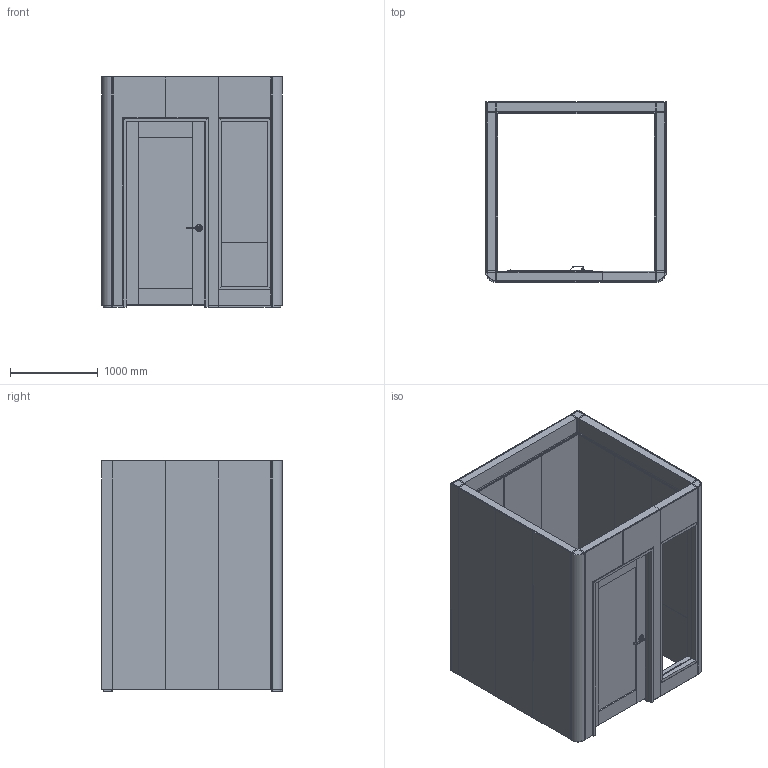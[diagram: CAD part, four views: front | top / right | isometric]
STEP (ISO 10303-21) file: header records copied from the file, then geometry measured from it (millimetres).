
FILE_DESCRIPTION(/* description */ (''),/* implementation_level */ '2;1');
FILE_NAME(/* name */ 'Quiet Two',/* time_stamp */ '2026-06-15T16:16:16+12:00',/* author */ (''),/* organization */ (''),/* preprocessor_version */ 'ST-DEVELOPER v19.2',/* originating_system */ 'Rhino 8.31',/* authorisation */ '');
FILE_SCHEMA (('CONFIG_CONTROL_DESIGN'));
Length unit declared in the file: millimetre
Products named in the file (17): Document; 600x2600mm External Door Lining; CornerPost_2600_92; 92x2600mm External Corner Lining; 600x2600mm External Lining; 18mm Packer; 600x2400mm Internal Linings - MDF; 600x740mm Internal Linings - Autex; 600x1656mm Internal Linings - Autex; 600x740mm Internal Linings Short - Autex; 600x1656mm Internal Linings Short - Autex; 600x246mm Internal Lining; WindowPanel_600_2600_92_600_1950; 600x178mm External Lining; 600x464mm External Lining; 600x178mm Internal Lining; 600x2600mm Internal Door Lining
Bounding box: 2052 x 2054 x 2618 mm (x, y, z)
Volume: 949430113.4 mm3; surface area: 134201231 mm2
Topology: 92 solids, 100 shells, 669 faces, 1462 edges, 993 vertices
Faces by surface type: plane 639, cylinder 22, bspline 8
Entity records: 14934 total; most frequent: CARTESIAN_POINT 3991, ORIENTED_EDGE 2328, EDGE_CURVE 1190, B_SPLINE_CURVE_WITH_KNOTS 1068, DIRECTION 811, VERTEX_POINT 804, AXIS2_PLACEMENT_3D 670, EDGE_LOOP 543
